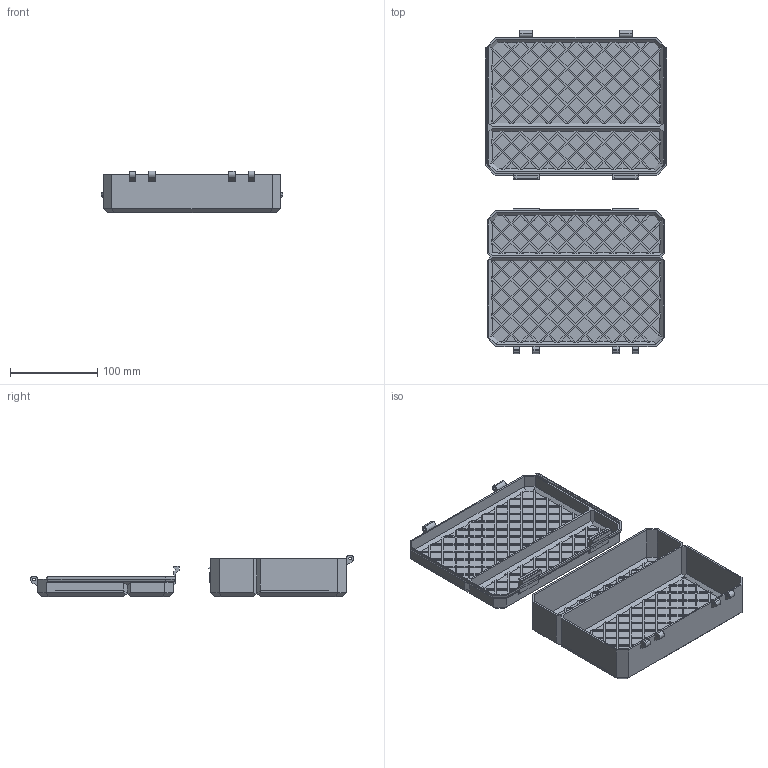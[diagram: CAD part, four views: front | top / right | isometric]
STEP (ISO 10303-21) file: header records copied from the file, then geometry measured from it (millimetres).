
FILE_DESCRIPTION(/* description */ (''),/* implementation_level */ '2;1');
FILE_NAME(/* name */ 'D:/OneDrive - Raap/Tornado/Mijndingen/Multimeterbox/multimeterbox3.stp',/* time_stamp */ '2019-11-09T17:41:05+01:00',/* author */ (''),/* organization */ (''),/* preprocessor_version */ 'ST-DEVELOPER v15.2',/* originating_system */ 'Autodesk Translator Framework v2.0.0.5431',/* authorisation */ '');
FILE_SCHEMA (('AUTOMOTIVE_DESIGN { 1 0 10303 214 3 1 1 }'));
Products named in the file (1): multimeterbox3
Bounding box: 208 x 370.58 x 48 mm (x, y, z)
Volume: 250654.7 mm3; surface area: 252531.3 mm2
Topology: 6 solids, 10 shells, 1873 faces, 5000 edges, 3306 vertices
Faces by surface type: plane 1728, bspline 125, cylinder 20
Full cylindrical faces by diameter (mm): 2.6 x4, 3.4 x2
Entity records: 59533 total; most frequent: CARTESIAN_POINT 13541, ORIENTED_EDGE 9996, DIRECTION 8278, EDGE_CURVE 4990, LINE 4700, VECTOR 4700, VERTEX_POINT 3302, EDGE_LOOP 2078
